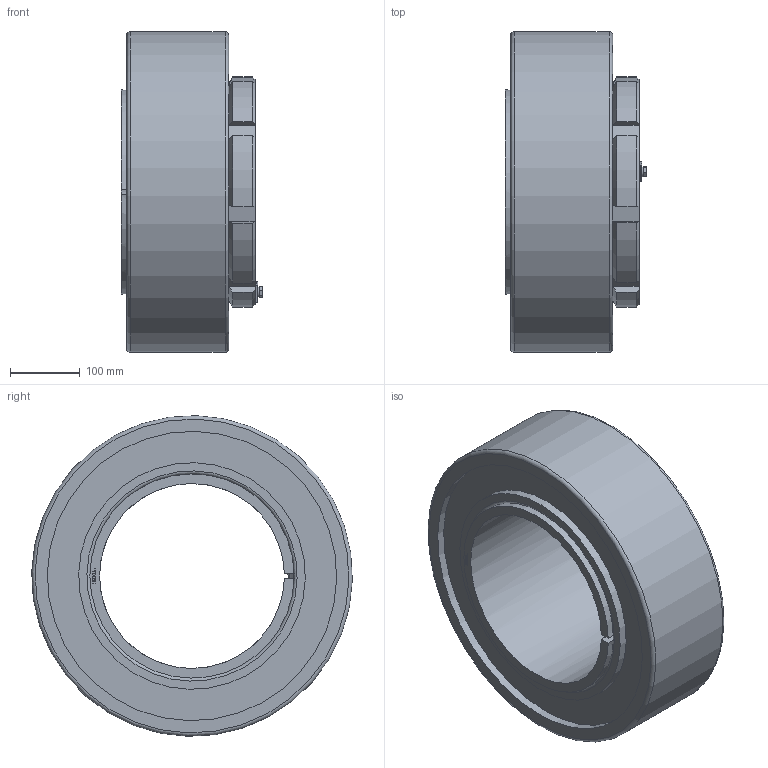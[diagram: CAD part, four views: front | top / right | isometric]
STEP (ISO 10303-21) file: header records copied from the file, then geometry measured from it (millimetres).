
FILE_DESCRIPTION( ( 'STEP AP203' ), ' ' );
FILE_NAME( 'p:/temp/worker_352/4084_4976/app_90_02016102822405179412898192d056f_000000_00_00_000000/format_0/BGL HA 3156 TL+C3156K.stp', '2016-10-28T20:40:53', ( '' ), ( '' ), ' ', 'PARTsolutions', ' ' );
FILE_SCHEMA( ( 'CONFIG_CONTROL_DESIGN' ) );
Length unit declared in the file: millimetre
Products named in the file (6): BGL HA 3156 TL+C3156K; _BGLHA3156TLB; _BGL HM 3056; _BGLHA3156TL+HA-C3156K; _BGL MS 3056part; _BGL MS 3056HHS
Assembly tree (5 placements, depth 2):
  BGL HA 3156 TL+C3156K
    _BGLHA3156TLB
    _BGL HM 3056
    _BGLHA3156TL+HA-C3156K
    _BGL MS 3056part
    _BGL MS 3056HHS
Bounding box: 203.05 x 459.84 x 459.84 mm (x, y, z)
Volume: 16035497 mm3; surface area: 1066511.9 mm2
Topology: 5 solids, 5 shells, 351 faces, 899 edges, 589 vertices
Faces by surface type: plane 230, cylinder 79, cone 38, torus 4
Full cylindrical faces by diameter (mm): 8 x9, 9 x1, 14.8 x1, 276 x1, 325 x2, 415 x2, 460 x1
Entity records: 10762 total; most frequent: CARTESIAN_POINT 2104, DIRECTION 1729, ORIENTED_EDGE 1726, EDGE_CURVE 863, VERTEX_POINT 586, AXIS2_PLACEMENT_3D 577, LINE 575, VECTOR 575
